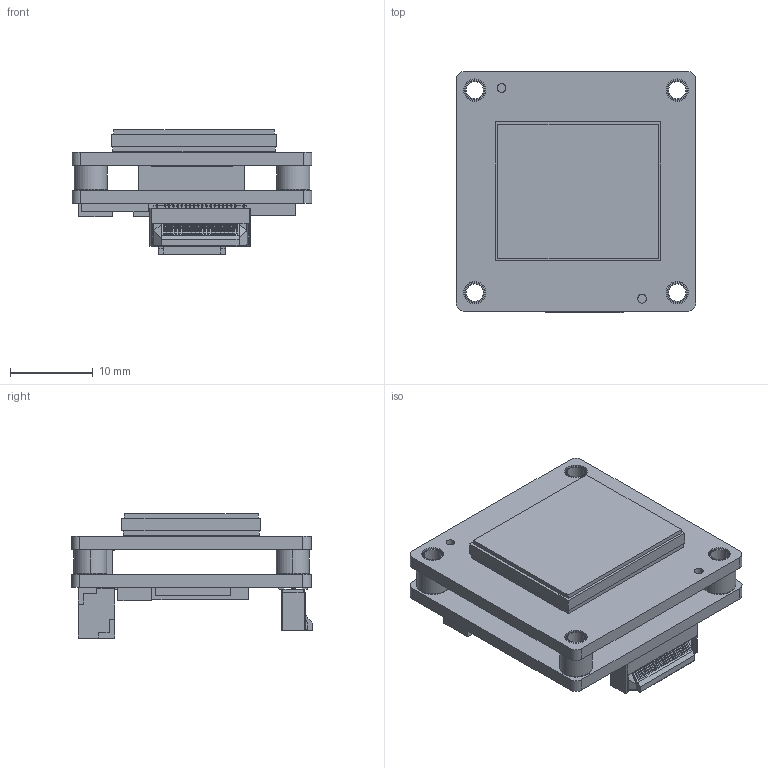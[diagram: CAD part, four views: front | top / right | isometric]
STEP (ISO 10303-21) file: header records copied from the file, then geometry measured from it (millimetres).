
FILE_DESCRIPTION (( 'STEP AP214' ), '1' );
FILE_NAME ('BFS-U3-200S6M(C)-BD2.STEP', '2018-09-24T16:46:29', ( '' ), ( '' ), 'SwSTEP 2.0', 'SolidWorks 2017', '' );
FILE_SCHEMA (( 'AUTOMOTIVE_DESIGN' ));
Length unit declared in the file: millimetre
Products named in the file (1): BFS-U3-200S6M(C)-BD2
Bounding box: 29 x 29.14 x 15.02 mm (x, y, z)
Volume: 4193.4 mm3; surface area: 7544.8 mm2
Topology: 18 solids, 18 shells, 1058 faces, 2852 edges, 1876 vertices
Faces by surface type: plane 828, cylinder 198, cone 24, bspline 8
Entity records: 45182 total; most frequent: CARTESIAN_POINT 6691, ORIENTED_EDGE 5704, DIRECTION 5324, EDGE_CURVE 2852, LINE 2402, VECTOR 2402, VERTEX_POINT 1876, AXIS2_PLACEMENT_3D 1461
